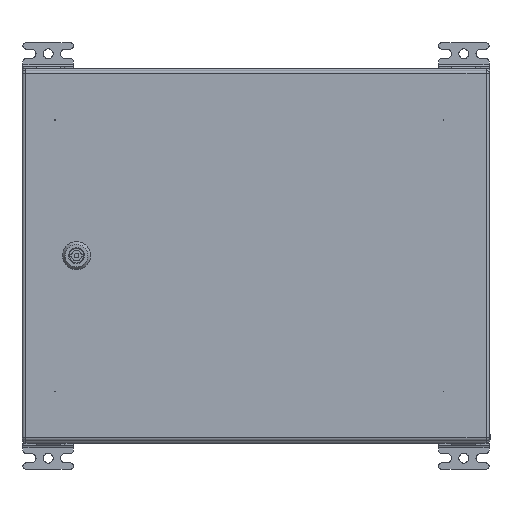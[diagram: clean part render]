
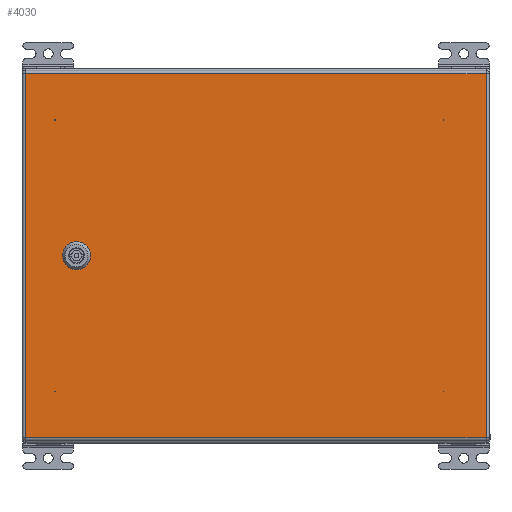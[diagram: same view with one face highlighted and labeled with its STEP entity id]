
A CAD part, top view. The second image highlights one B-rep face of the part: STEP entity #4030.
In plain terms, the highlighted planar face has unit normal (0, 0, 1).
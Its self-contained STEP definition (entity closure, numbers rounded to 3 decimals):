
#4030=ADVANCED_FACE('',(#11256,#11258),#11260,.T.);
#11256=FACE_BOUND('',#11257,.T.);
#11257=EDGE_LOOP('',(#32175,#32176,#32177,#32178));
#11258=FACE_BOUND('',#11259,.T.);
#11259=EDGE_LOOP('',(#32179,#32180,#32181,#32182,#32183,#32184,#32185,#32186));
#11260=PLANE('',#11261);
#11261=AXIS2_PLACEMENT_3D('',#11262,#11263,#11264);
#11262=CARTESIAN_POINT('',(0.,0.,1.5));
#11263=DIRECTION('',(0.,0.,1.));
#11264=DIRECTION('',(1.,0.,0.));
#32175=ORIENTED_EDGE('',*,*,#35611,.T.);
#32176=ORIENTED_EDGE('',*,*,#35612,.T.);
#32177=ORIENTED_EDGE('',*,*,#35552,.T.);
#32178=ORIENTED_EDGE('',*,*,#35613,.T.);
#32179=ORIENTED_EDGE('',*,*,#35614,.T.);
#32180=ORIENTED_EDGE('',*,*,#35615,.T.);
#32181=ORIENTED_EDGE('',*,*,#35616,.T.);
#32182=ORIENTED_EDGE('',*,*,#35617,.T.);
#32183=ORIENTED_EDGE('',*,*,#35618,.T.);
#32184=ORIENTED_EDGE('',*,*,#35619,.T.);
#32185=ORIENTED_EDGE('',*,*,#35620,.T.);
#32186=ORIENTED_EDGE('',*,*,#35621,.T.);
#35552=EDGE_CURVE('',#38485,#38483,#38486,.T.);
#35611=EDGE_CURVE('',#38586,#38587,#38588,.T.);
#35612=EDGE_CURVE('',#38587,#38485,#38589,.T.);
#35613=EDGE_CURVE('',#38483,#38586,#38590,.T.);
#35614=EDGE_CURVE('',#38591,#38592,#38593,.F.);
#35615=EDGE_CURVE('',#38592,#38594,#38595,.F.);
#35616=EDGE_CURVE('',#38594,#38596,#38597,.F.);
#35617=EDGE_CURVE('',#38596,#38598,#38599,.F.);
#35618=EDGE_CURVE('',#38598,#38600,#38601,.F.);
#35619=EDGE_CURVE('',#38600,#38602,#38603,.F.);
#35620=EDGE_CURVE('',#38602,#38604,#38605,.F.);
#35621=EDGE_CURVE('',#38604,#38591,#38606,.F.);
#38483=VERTEX_POINT('',#46751);
#38485=VERTEX_POINT('',#46756);
#38486=LINE('',#46757,#46758);
#38586=VERTEX_POINT('',#46994);
#38587=VERTEX_POINT('',#46995);
#38588=LINE('',#46996,#46997);
#38589=LINE('',#46999,#47000);
#38590=LINE('',#47002,#47003);
#38591=VERTEX_POINT('',#47005);
#38592=VERTEX_POINT('',#47006);
#38593=LINE('',#47007,#47008);
#38594=VERTEX_POINT('',#47010);
#38595=CIRCLE('',#47011,11.25);
#38596=VERTEX_POINT('',#47015);
#38597=LINE('',#47016,#47017);
#38598=VERTEX_POINT('',#47019);
#38599=CIRCLE('',#47020,11.25);
#38600=VERTEX_POINT('',#47024);
#38601=LINE('',#47025,#47026);
#38602=VERTEX_POINT('',#47028);
#38603=CIRCLE('',#47029,11.25);
#38604=VERTEX_POINT('',#47033);
#38605=LINE('',#47034,#47035);
#38606=CIRCLE('',#47037,11.25);
#46751=CARTESIAN_POINT('',(0.,0.,1.5));
#46756=CARTESIAN_POINT('',(0.,-492.,1.5));
#46757=CARTESIAN_POINT('',(0.,-492.,1.5));
#46758=VECTOR('',#46759,1.);
#46759=DIRECTION('',(0.,1.,0.));
#46994=CARTESIAN_POINT('',(-389.,0.,1.5));
#46995=CARTESIAN_POINT('',(-389.,-492.,1.5));
#46996=CARTESIAN_POINT('',(-389.,0.,1.5));
#46997=VECTOR('',#46998,1.);
#46998=DIRECTION('',(0.,-1.,0.));
#46999=CARTESIAN_POINT('',(-389.,-492.,1.5));
#47000=VECTOR('',#47001,1.);
#47001=DIRECTION('',(1.,0.,0.));
#47002=CARTESIAN_POINT('',(0.,0.,1.5));
#47003=VECTOR('',#47004,1.);
#47004=DIRECTION('',(-1.,0.,0.));
#47005=CARTESIAN_POINT('',(-189.545,-64.6,1.5));
#47006=CARTESIAN_POINT('',(-199.455,-64.6,1.5));
#47007=CARTESIAN_POINT('',(-199.455,-64.6,1.5));
#47008=VECTOR('',#47009,1.);
#47009=DIRECTION('',(1.,0.,0.));
#47010=CARTESIAN_POINT('',(-204.6,-59.455,1.5));
#47011=AXIS2_PLACEMENT_3D('',#47012,#47013,#47014);
#47012=CARTESIAN_POINT('',(-194.5,-54.5,1.5));
#47013=DIRECTION('',(0.,0.,1.));
#47014=DIRECTION('',(-0.898,-0.44,0.));
#47015=CARTESIAN_POINT('',(-204.6,-49.545,1.5));
#47016=CARTESIAN_POINT('',(-204.6,-49.545,1.5));
#47017=VECTOR('',#47018,1.);
#47018=DIRECTION('',(0.,-1.,0.));
#47019=CARTESIAN_POINT('',(-199.455,-44.4,1.5));
#47020=AXIS2_PLACEMENT_3D('',#47021,#47022,#47023);
#47021=CARTESIAN_POINT('',(-194.5,-54.5,1.5));
#47022=DIRECTION('',(0.,0.,1.));
#47023=DIRECTION('',(-0.44,0.898,0.));
#47024=CARTESIAN_POINT('',(-189.545,-44.4,1.5));
#47025=CARTESIAN_POINT('',(-189.545,-44.4,1.5));
#47026=VECTOR('',#47027,1.);
#47027=DIRECTION('',(-1.,0.,0.));
#47028=CARTESIAN_POINT('',(-184.4,-49.545,1.5));
#47029=AXIS2_PLACEMENT_3D('',#47030,#47031,#47032);
#47030=CARTESIAN_POINT('',(-194.5,-54.5,1.5));
#47031=DIRECTION('',(0.,0.,1.));
#47032=DIRECTION('',(0.898,0.44,0.));
#47033=CARTESIAN_POINT('',(-184.4,-59.455,1.5));
#47034=CARTESIAN_POINT('',(-184.4,-59.455,1.5));
#47035=VECTOR('',#47036,1.);
#47036=DIRECTION('',(0.,1.,0.));
#47037=AXIS2_PLACEMENT_3D('',#47038,#47039,#47040);
#47038=CARTESIAN_POINT('',(-194.5,-54.5,1.5));
#47039=DIRECTION('',(0.,0.,1.));
#47040=DIRECTION('',(0.44,-0.898,0.));
